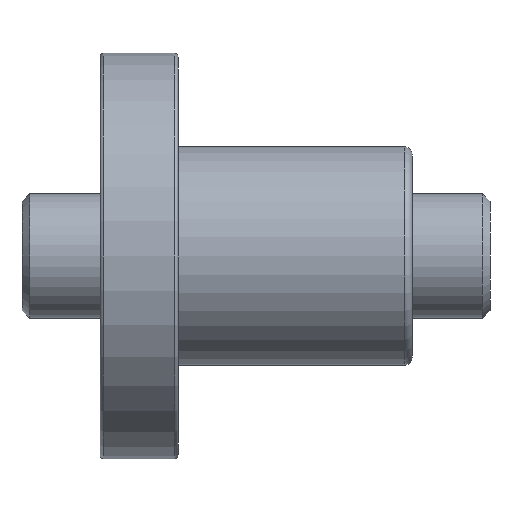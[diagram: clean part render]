
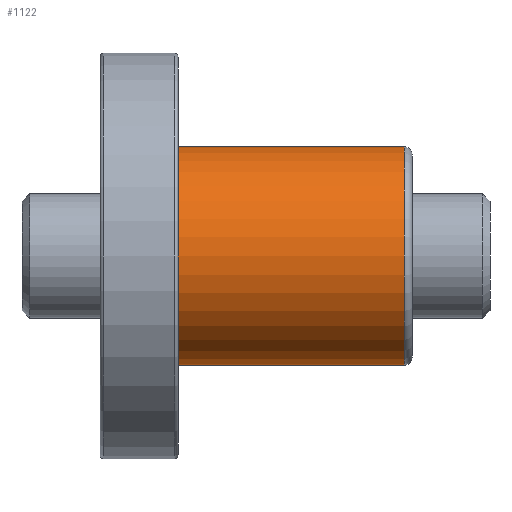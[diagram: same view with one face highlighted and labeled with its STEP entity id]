
A CAD part, front view. The second image highlights one B-rep face of the part: STEP entity #1122.
In plain terms, the highlighted cylindrical face has radius 14 mm (diameter 28 mm), a partial arc.
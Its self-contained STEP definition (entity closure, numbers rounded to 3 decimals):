
#53 = CARTESIAN_POINT ( 'NONE',  ( 40., 0., 0. ) ) ;
#422 = EDGE_CURVE ( 'NONE', #2080, #994, #3518, .T. ) ;
#454 = CARTESIAN_POINT ( 'NONE',  ( 40., 0., 14. ) ) ;
#456 = ORIENTED_EDGE ( 'NONE', *, *, #1491, .T. ) ;
#468 = VECTOR ( 'NONE', #1283, 1000. ) ;
#608 = VERTEX_POINT ( 'NONE', #3143 ) ;
#663 = CARTESIAN_POINT ( 'NONE',  ( 40., 0., -14. ) ) ;
#677 = LINE ( 'NONE', #663, #468 ) ;
#787 = DIRECTION ( 'NONE',  ( -1., 0., 0. ) ) ;
#913 = ORIENTED_EDGE ( 'NONE', *, *, #2349, .F. ) ;
#994 = VERTEX_POINT ( 'NONE', #1867 ) ;
#1004 = CYLINDRICAL_SURFACE ( 'NONE', #1914, 14. ) ;
#1005 = CIRCLE ( 'NONE', #2648, 14. ) ;
#1122 = ADVANCED_FACE ( 'NONE', ( #1737 ), #1004, .T. ) ;
#1283 = DIRECTION ( 'NONE',  ( -1., 0., 0. ) ) ;
#1293 = AXIS2_PLACEMENT_3D ( 'NONE', #1869, #1559, #2511 ) ;
#1491 = EDGE_CURVE ( 'NONE', #994, #608, #2725, .T. ) ;
#1559 = DIRECTION ( 'NONE',  ( -1., 0., 0. ) ) ;
#1723 = VERTEX_POINT ( 'NONE', #3707 ) ;
#1737 = FACE_OUTER_BOUND ( 'NONE', #1764, .T. ) ;
#1755 = CARTESIAN_POINT ( 'NONE',  ( 39., 0., -14. ) ) ;
#1764 = EDGE_LOOP ( 'NONE', ( #913, #3838, #456, #2302 ) ) ;
#1867 = CARTESIAN_POINT ( 'NONE',  ( 39., 0., 14. ) ) ;
#1869 = CARTESIAN_POINT ( 'NONE',  ( 39., 0., 0. ) ) ;
#1914 = AXIS2_PLACEMENT_3D ( 'NONE', #53, #1947, #2523 ) ;
#1947 = DIRECTION ( 'NONE',  ( -1., 0., 0. ) ) ;
#2080 = VERTEX_POINT ( 'NONE', #1755 ) ;
#2091 = DIRECTION ( 'NONE',  ( 0., 0., -1. ) ) ;
#2302 = ORIENTED_EDGE ( 'NONE', *, *, #2675, .T. ) ;
#2349 = EDGE_CURVE ( 'NONE', #2080, #1723, #677, .T. ) ;
#2399 = DIRECTION ( 'NONE',  ( 1., 0., 0. ) ) ;
#2511 = DIRECTION ( 'NONE',  ( 0., 0., -1. ) ) ;
#2523 = DIRECTION ( 'NONE',  ( 0., 0., 1. ) ) ;
#2648 = AXIS2_PLACEMENT_3D ( 'NONE', #3309, #2399, #2091 ) ;
#2675 = EDGE_CURVE ( 'NONE', #608, #1723, #1005, .T. ) ;
#2725 = LINE ( 'NONE', #454, #3582 ) ;
#3143 = CARTESIAN_POINT ( 'NONE',  ( 10., 0., 14. ) ) ;
#3309 = CARTESIAN_POINT ( 'NONE',  ( 10., 0., 0. ) ) ;
#3518 = CIRCLE ( 'NONE', #1293, 14. ) ;
#3582 = VECTOR ( 'NONE', #787, 1000. ) ;
#3707 = CARTESIAN_POINT ( 'NONE',  ( 10., 0., -14. ) ) ;
#3838 = ORIENTED_EDGE ( 'NONE', *, *, #422, .T. ) ;
